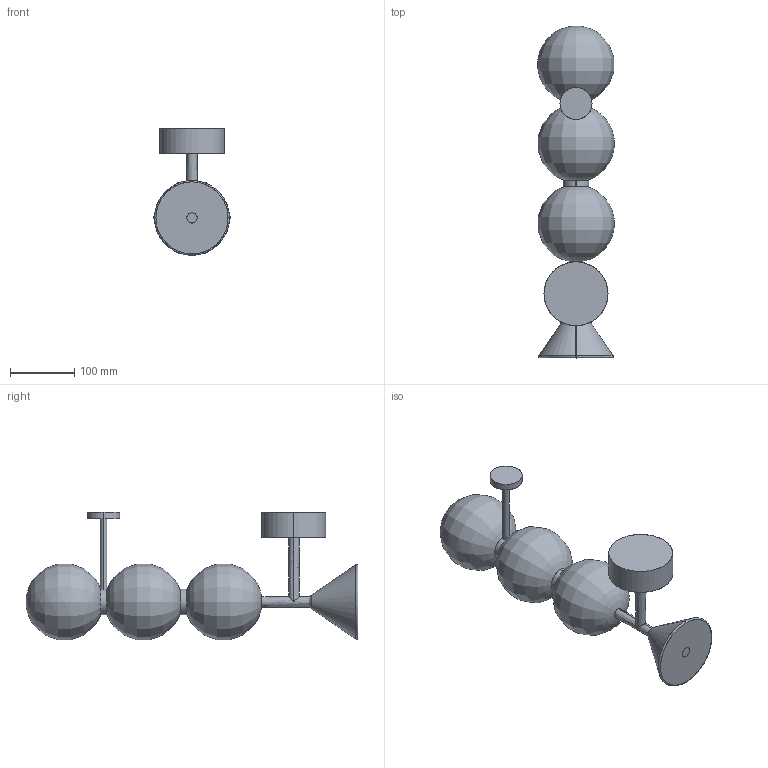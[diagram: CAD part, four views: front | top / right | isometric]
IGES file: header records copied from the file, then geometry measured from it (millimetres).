
Start section: SolidWorks IGES file using analytic representation for surfaces
Global section: file name: C:\Users\Agustin\Desktop\ENERO 2025\2D-3D\2D-3D SOKO 1335\SOKO_A1335_3\SOKO_A1335_3.IGS; native system: SolidWorks 2018; preprocessor: SolidWorks 2018; author: Agustin; date: 250117.151311; units: millimetre
Bounding box: 120 x 518.29 x 199.09 mm (x, y, z)
Surface area: 359817.4 mm2 (no closed solid volume)
Topology: 0 solids, 0 shells, 40 faces, 906 edges, 898 vertices
Faces by surface type: revolution 22, bspline 18
